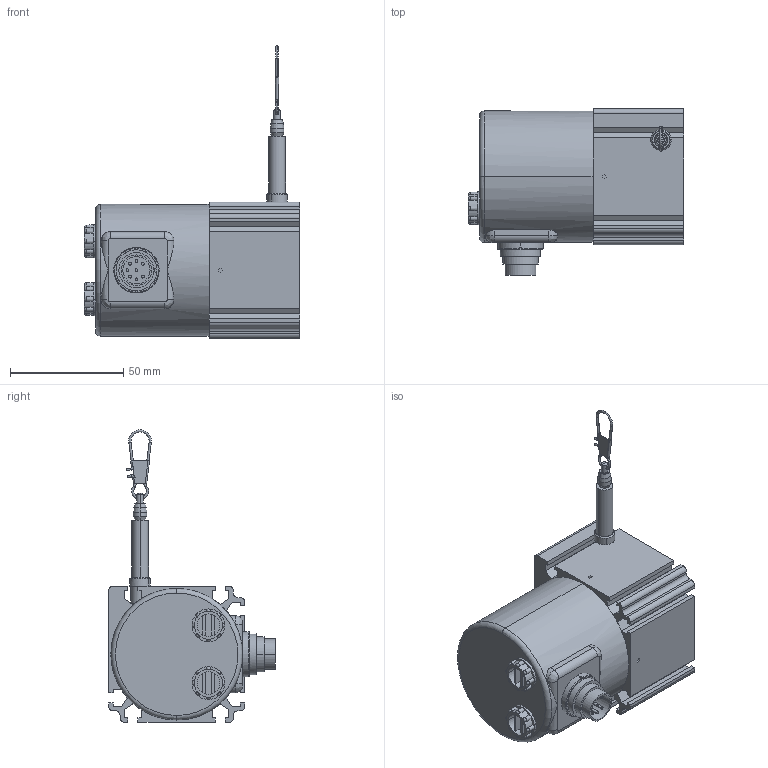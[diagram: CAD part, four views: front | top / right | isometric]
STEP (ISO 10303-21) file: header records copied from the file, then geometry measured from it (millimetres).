
FILE_DESCRIPTION((''),'2;1');
FILE_NAME('','2007-03-21T',(''),(''),'PRO/ENGINEER BY PARAMETRIC TECHNOLOGY CORPORATION, 2003250','PRO/ENGINEER BY PARAMETRIC TECHNOLOGY CORPORATION, 2003250','');
FILE_SCHEMA(('CONFIG_CONTROL_DESIGN'));
Length unit declared in the file: millimetre
Bounding box: 95 x 73.5 x 129 mm (x, y, z)
Volume: 93949.8 mm3; surface area: 59885.8 mm2
Topology: 1 solids, 5 shells, 528 faces, 1460 edges, 972 vertices
Faces by surface type: plane 226, cylinder 216, cone 38, bspline 24, torus 22, sphere 2
Entity records: 18034 total; most frequent: CARTESIAN_POINT 4190, DIRECTION 3045, ORIENTED_EDGE 2852, EDGE_CURVE 1426, AXIS2_PLACEMENT_3D 1204, VERTEX_POINT 972, CIRCLE 700, VECTOR 637
